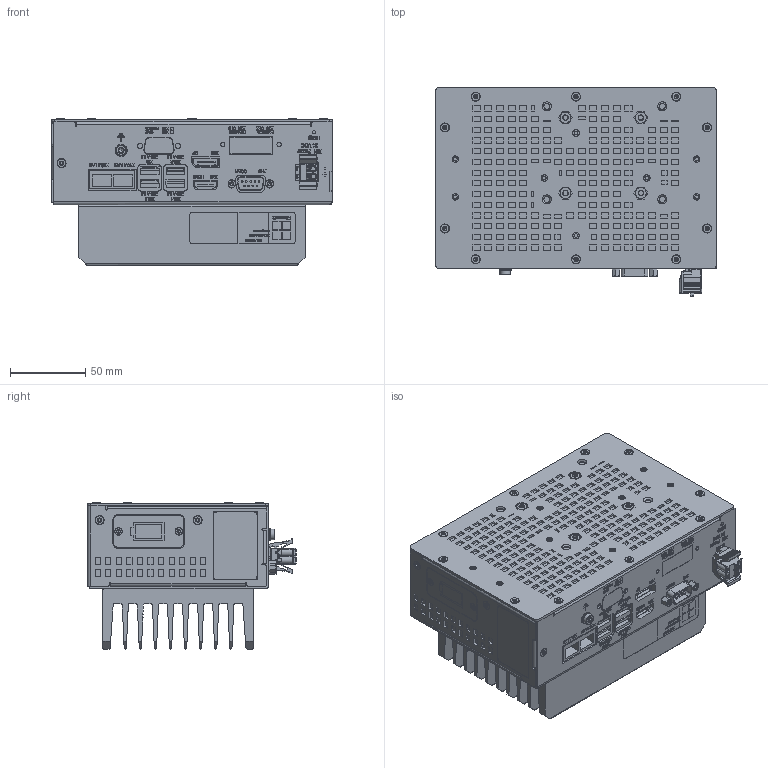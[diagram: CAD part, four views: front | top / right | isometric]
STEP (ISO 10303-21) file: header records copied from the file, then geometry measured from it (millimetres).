
FILE_DESCRIPTION(/* description */ (''),/* implementation_level */ '2;1');
FILE_NAME(/* name */ 'C:\SAPInventorWork\778-34994-00_EXTERN.stp',/* time_stamp */ '2025-02-25T14:53:24+01:00',/* author */ ('Aiple'),/* organization */ (''),/* preprocessor_version */ 'ST-DEVELOPER v18.1',/* originating_system */ 'Autodesk Inventor 2021',/* authorisation */ '');
FILE_SCHEMA (('AUTOMOTIVE_DESIGN { 1 0 10303 214 3 1 1 }'));
Products named in the file (1): 778-34994-00
Bounding box: 186.72 x 138.5 x 96.86 mm (x, y, z)
Volume: 1553674 mm3; surface area: 189233.9 mm2
Topology: 1 solids, 30 shells, 5916 faces, 15414 edges, 10203 vertices
Faces by surface type: plane 3790, bspline 1127, cylinder 757, cone 236, torus 3, sphere 3
Full cylindrical faces by diameter (mm): 0.457 x1, 1 x9, 2.156 x2, 2.2 x1, 2.459 x14, 2.8 x6, 3.242 x4, 3.5 x4, 4 x26, 4.22 x14, 4.3 x16, 4.7 x2, 5.38 x1, 5.4 x1, 5.54 x19, 6.6 x4, 7 x1, 7.11 x4, 7.2 x4
Entity records: 198687 total; most frequent: CARTESIAN_POINT 55173, ORIENTED_EDGE 30822, DIRECTION 23235, EDGE_CURVE 15411, LINE 10957, VECTOR 10957, VERTEX_POINT 10203, EDGE_LOOP 6657
